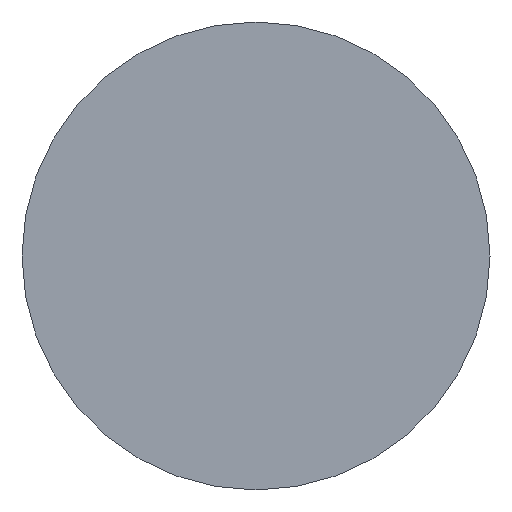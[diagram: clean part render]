
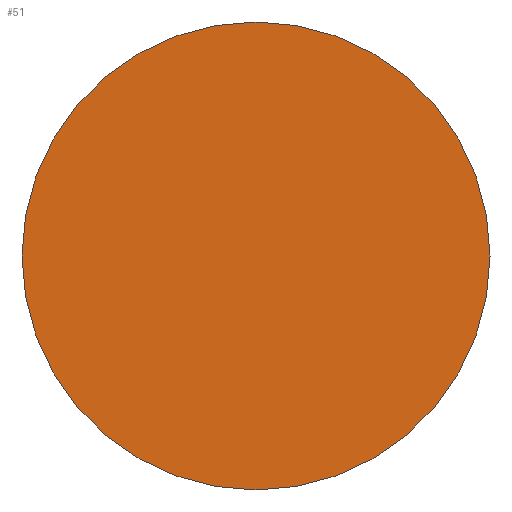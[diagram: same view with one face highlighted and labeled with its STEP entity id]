
A CAD part, top view. The second image highlights one B-rep face of the part: STEP entity #51.
In plain terms, the highlighted planar face has unit normal (0, 0, 1).
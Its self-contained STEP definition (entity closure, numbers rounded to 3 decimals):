
#51=ADVANCED_FACE('',(#106),#107,.F.);
#106=FACE_OUTER_BOUND('',#156,.T.);
#107=PLANE('',#157);
#156=EDGE_LOOP('',(#228));
#157=AXIS2_PLACEMENT_3D('',#229,#230,#231);
#228=ORIENTED_EDGE('',*,*,#259,.F.);
#229=CARTESIAN_POINT('',(0.0,0.0,0.0));
#230=DIRECTION('',(-0.0,0.,-1.0));
#231=DIRECTION('',(0.0,1.0,0.));
#259=EDGE_CURVE('',#288,#288,#289,.T.);
#288=VERTEX_POINT('',#319);
#289=CIRCLE('',#320,16.0);
#319=CARTESIAN_POINT('',(0.0,16.0,0.));
#320=AXIS2_PLACEMENT_3D('',#350,#351,#352);
#350=CARTESIAN_POINT('',(0.0,0.0,0.0));
#351=DIRECTION('',(-0.0,0.,-1.0));
#352=DIRECTION('',(0.0,1.0,0.));
